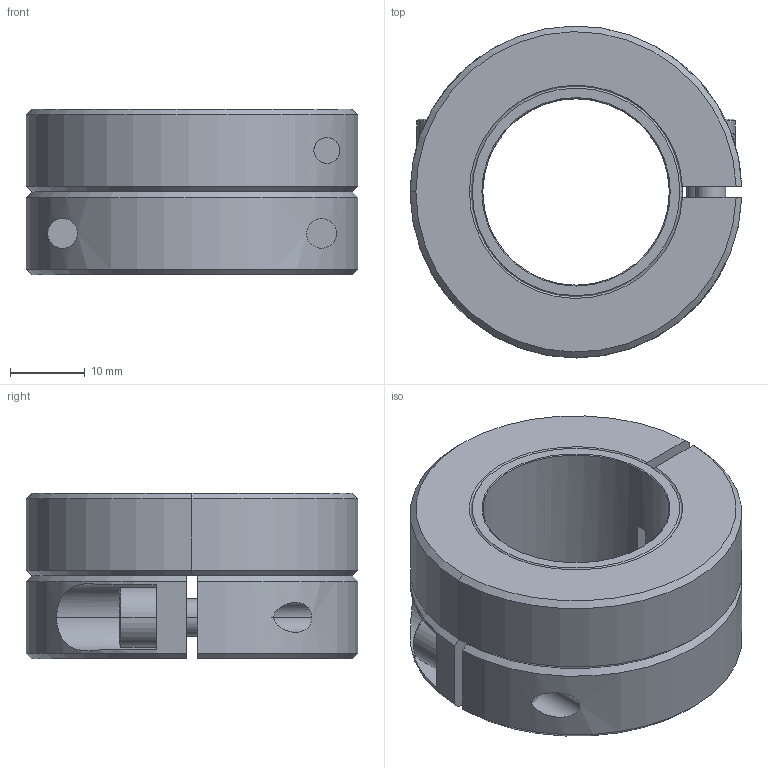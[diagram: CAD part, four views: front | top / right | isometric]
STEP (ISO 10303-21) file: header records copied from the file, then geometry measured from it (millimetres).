
FILE_DESCRIPTION( ( 'STEP File Generated from Kubotek KeyCreator' ), '1' );
FILE_NAME( 'Part1', '2006-06-03T22:47:36', ( 'KeyCreator USER' ), ( 'Kubotek USA, Inc.' ), 'ACIS Interop R13 SP5', 'Kubotek KeyCreator V4.5.0 (0337)', 'KC' );
FILE_SCHEMA( ( 'CONFIG_CONTROL_DESIGN' ) );
Length unit declared in the file: inch
Products named in the file (5): 1; 2; 3; 4; 5
Bounding box: 44.44 x 44.45 x 22.23 mm (x, y, z)
Volume: 22275.2 mm3; surface area: 13105.4 mm2
Topology: 5 solids, 5 shells, 124 faces, 298 edges, 192 vertices
Faces by surface type: plane 54, cylinder 40, cone 30
Entity records: 4108 total; most frequent: CARTESIAN_POINT 901, DIRECTION 652, ORIENTED_EDGE 596, EDGE_CURVE 298, AXIS2_PLACEMENT_3D 241, VERTEX_POINT 192, LINE 170, VECTOR 170
